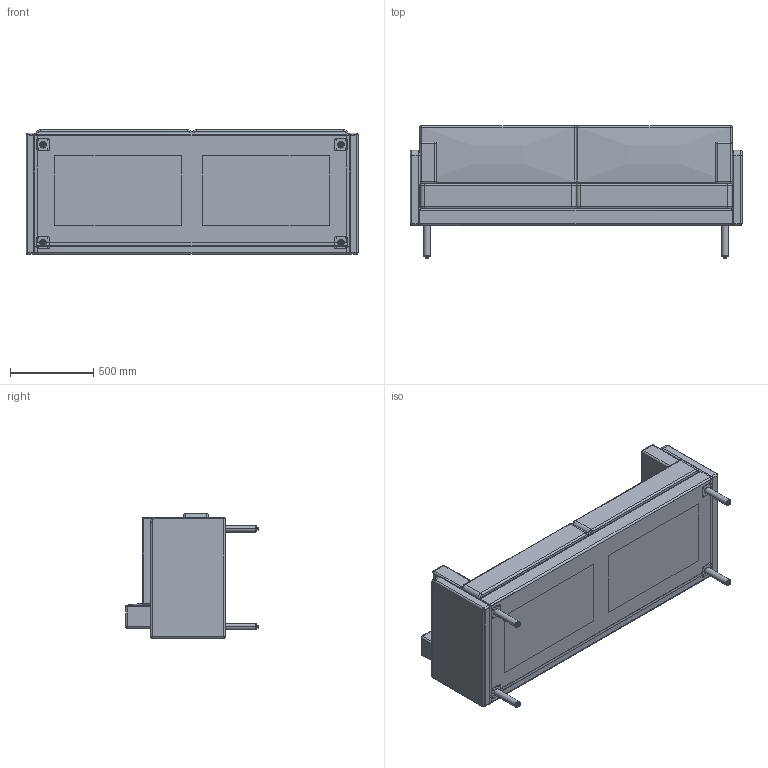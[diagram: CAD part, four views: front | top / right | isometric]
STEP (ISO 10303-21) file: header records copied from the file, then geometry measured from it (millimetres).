
FILE_DESCRIPTION (( 'STEP AP203' ), '1' );
FILE_NAME ('Edlyn Sofa W2000 x D750 x H800.STEP', '2024-04-06T09:03:47', ( '' ), ( '' ), 'SwSTEP 2.0', 'SolidWorks 2023', '' );
FILE_SCHEMA (( 'CONFIG_CONTROL_DESIGN' ));
Length unit declared in the file: millimetre
Products named in the file (9): MirrorEdlyn Sofa Backrest Cushion 3S; Edlyn Sofa Up 3S; Edlyn Sofa W2000 x D750 x H800; Leg 3S; Edlyn Sofa Handrest 3S; Seat Cushion 3S; MirrorSeat Cushion 3S; Edlyn Sofa Structure 3S; Edlyn Sofa Backrest Cushion 3S
Assembly tree (12 placements, depth 2):
  Edlyn Sofa W2000 x D750 x H800
    Edlyn Sofa Structure 3S
    Edlyn Sofa Up 3S
    Seat Cushion 3S
    Edlyn Sofa Backrest Cushion 3S
    Edlyn Sofa Handrest 3S  x2
    Leg 3S  x4
    MirrorSeat Cushion 3S
    MirrorEdlyn Sofa Backrest Cushion 3S
Bounding box: 2000 x 800 x 750 mm (x, y, z)
Volume: 587216067.9 mm3; surface area: 18820079.3 mm2
Topology: 57 solids, 57 shells, 694 faces, 1516 edges, 892 vertices
Faces by surface type: plane 390, cylinder 188, sphere 60, torus 36, cone 16, bspline 4
Entity records: 15661 total; most frequent: CARTESIAN_POINT 2830, DIRECTION 2498, ORIENTED_EDGE 2276, EDGE_CURVE 1138, LINE 862, VECTOR 862, AXIS2_PLACEMENT_3D 818, VERTEX_POINT 694
